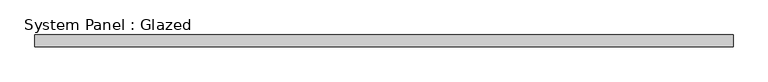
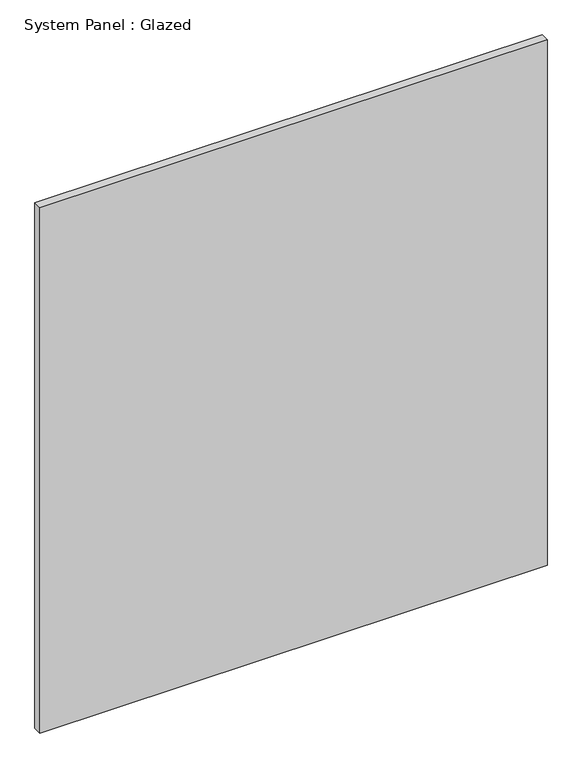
"""IFC4 building model written with IfcOpenShell, lengths in millimetres: plate geometry, System Panel : Glazed."""

from ifc_helpers import new_model, si_unit, origin, origin_with_axes, place, context, project, spatial, polyline, outline, extrude, source, transform, mapped, element, save


def system_panel_glazed_fe6e58a4(model_context):
    return source(origin(), model_context, "Body", "SweptSolid", [
        extrude(outline(polyline([(730.5833335, 24.5), (-730.5833335, 24.5), (-730.5833335, 49.5), (730.5833335, 49.5), (730.5833335, 24.5)])), origin_with_axes(), (0.0, 0.0, 1.0), 1600.0),
    ])


if __name__ == "__main__":
    model = new_model("IFC4")
    model_context = context("Model", 3, world=origin())
    ifc_project = project(units=[si_unit("LENGTHUNIT", "METRE", prefix="MILLI")], contexts=[model_context])
    site = spatial("IfcSite", under=ifc_project)
    building = spatial("IfcBuilding", under=site)
    placement = place(None, origin())
    system_panel_glazed_shape = system_panel_glazed_fe6e58a4(model_context)
    element("IfcPlate", 1, ObjectType="System Panel : Glazed", at=placement, inside=building, context=model_context, shape_type="MappedRepresentation", body=[
        mapped(system_panel_glazed_shape, transform((0.0, 0.0, 0.0), x_axis=(1.0, 0.0, 0.0), y_axis=(0.0, 1.0, 0.0), z_axis=(0.0, 0.0, 1.0))),
    ])
    save(model, "model.ifc")
